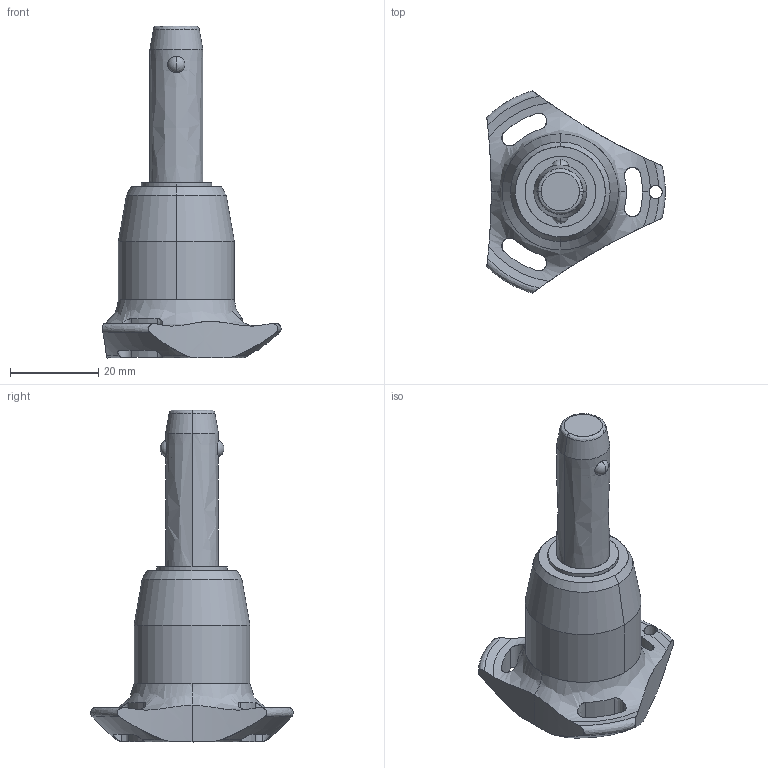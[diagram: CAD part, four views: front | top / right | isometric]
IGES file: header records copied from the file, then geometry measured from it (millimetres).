
Start section: SolidWorks IGES file using analytic representation for surfaces
Global section: file name: C:\Users\ianosborn\Desktop\QR1724_v2\QR1724_v2_20251112_IGES\QR1724.M12-025-S.igs; native system: SolidWorks 2019; preprocessor: SolidWorks 2019; author: IanOsborn; date: 251112.125711; units: millimetre
Bounding box: 40.5 x 45.88 x 75.3 mm (x, y, z)
Surface area: 7280.1 mm2 (no closed solid volume)
Topology: 0 solids, 0 shells, 65 faces, 1367 edges, 1363 vertices
Faces by surface type: revolution 50, bspline 15
